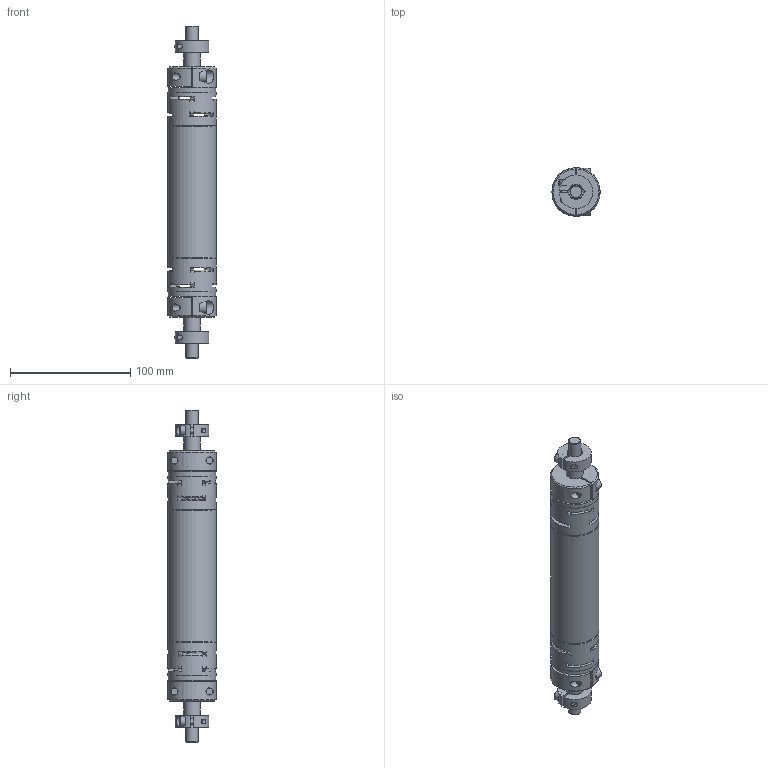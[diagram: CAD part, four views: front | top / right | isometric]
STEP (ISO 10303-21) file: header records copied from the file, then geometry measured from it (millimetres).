
FILE_DESCRIPTION(/* description */ ('Dummy'),/* implementation_level */ '2;1');
FILE_NAME(/* name */ 'D:\InventorWorkspace2019\CAD\_lokale konstruktionen\VerbWelleHLR070\0232.910-0300.stp',/* time_stamp */ '2020-04-14T16:09:07+02:00',/* author */ ('AR64535'),/* organization */ (''),/* preprocessor_version */ 'ST-DEVELOPER v17.2',/* originating_system */ 'Autodesk Inventor 2019',/* authorisation */ '');
FILE_SCHEMA (('AUTOMOTIVE_DESIGN { 1 0 10303 214 3 1 1 }'));
Length unit declared in the file: millimetre
Products named in the file (8): 0241910-XXXX_HLR070; 0241.910-XXXX; ROTEX GS19 ZR3_Klemmnabe D14; ROTEX GS19 ZR3_Rohr; 0232.007-02; 0231.029; 0231.012-01; 130-302319
Assembly tree (11 placements, depth 3):
  0241910-XXXX_HLR070
    0241.910-XXXX
      ROTEX GS19 ZR3_Klemmnabe D14  x2
      ROTEX GS19 ZR3_Rohr
    0232.007-02
      0231.029  x2
      0231.012-01  x2
      130-302319  x2
Bounding box: 40 x 40 x 276 mm (x, y, z)
Volume: 150972.1 mm3; surface area: 72996.5 mm2
Topology: 9 solids, 9 shells, 430 faces, 1260 edges, 858 vertices
Faces by surface type: cylinder 178, plane 156, cone 92, torus 4
Full cylindrical faces by diameter (mm): 3 x12, 4.134 x2, 5 x2, 5.3 x2, 6 x4, 6.6 x8, 8.5 x2, 10 x6, 14 x4, 18 x4, 22 x2, 34 x1, 39.4 x2, 40 x3
Entity records: 8244 total; most frequent: CARTESIAN_POINT 2097, ORIENTED_EDGE 1268, DIRECTION 1244, EDGE_CURVE 634, AXIS2_PLACEMENT_3D 516, VERTEX_POINT 432, CIRCLE 279, EDGE_LOOP 256
